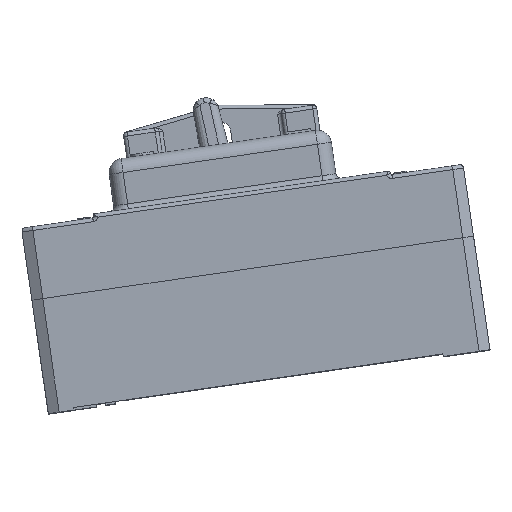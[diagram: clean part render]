
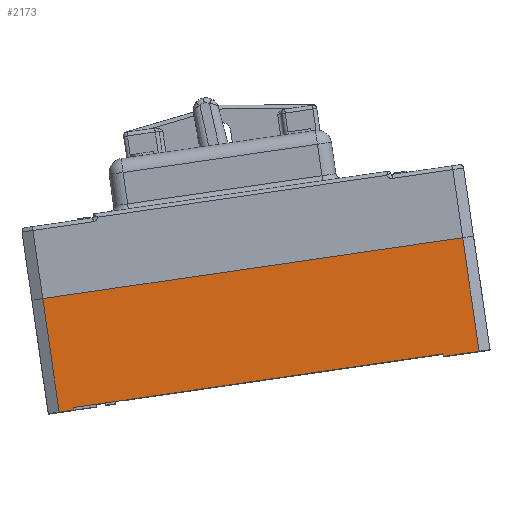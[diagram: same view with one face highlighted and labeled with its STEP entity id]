
A CAD part, top view. The second image highlights one B-rep face of the part: STEP entity #2173.
In plain terms, the highlighted planar face has unit normal (0, 0, 1).
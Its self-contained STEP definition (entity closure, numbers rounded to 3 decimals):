
#1448 = EDGE_CURVE ( 'NONE', #1450, #1472, #24326, .T. ) ;
#1450 = VERTEX_POINT ( 'NONE', #24321 ) ;
#1472 = VERTEX_POINT ( 'NONE', #24346 ) ;
#1498 = EDGE_CURVE ( 'NONE', #1518, #1569, #24435, .T. ) ;
#1518 = VERTEX_POINT ( 'NONE', #24457 ) ;
#1565 = EDGE_CURVE ( 'NONE', #1566, #1518, #24552, .T. ) ;
#1566 = VERTEX_POINT ( 'NONE', #24548 ) ;
#1569 = VERTEX_POINT ( 'NONE', #24543 ) ;
#1947 = EDGE_CURVE ( 'NONE', #1948, #1566, #25196, .T. ) ;
#1948 = VERTEX_POINT ( 'NONE', #25250 ) ;
#2104 = ORIENTED_EDGE ( 'NONE', *, *, #2168, .T. ) ;
#2105 = ORIENTED_EDGE ( 'NONE', *, *, #1947, .T. ) ;
#2106 = ORIENTED_EDGE ( 'NONE', *, *, #1565, .T. ) ;
#2107 = ORIENTED_EDGE ( 'NONE', *, *, #1498, .T. ) ;
#2108 = EDGE_CURVE ( 'NONE', #1450, #1569, #25490, .T. ) ;
#2109 = ORIENTED_EDGE ( 'NONE', *, *, #2108, .F. ) ;
#2110 = ORIENTED_EDGE ( 'NONE', *, *, #1448, .T. ) ;
#2111 = VERTEX_POINT ( 'NONE', #25486 ) ;
#2168 = EDGE_CURVE ( 'NONE', #2171, #1948, #25592, .T. ) ;
#2171 = VERTEX_POINT ( 'NONE', #25588 ) ;
#2172 = ORIENTED_EDGE ( 'NONE', *, *, #2179, .F. ) ;
#2173 = ADVANCED_FACE ( 'NONE', ( #25587 ), #25586, .T. ) ;
#2175 = EDGE_LOOP ( 'NONE', ( #2104, #2105, #2106, #2107, #2109, #2110, #2181, #2172 ) ) ;
#2179 = EDGE_CURVE ( 'NONE', #2171, #2111, #25572, .T. ) ;
#2181 = ORIENTED_EDGE ( 'NONE', *, *, #2182, .T. ) ;
#2182 = EDGE_CURVE ( 'NONE', #1472, #2111, #25627, .T. ) ;
#24321 = CARTESIAN_POINT ( 'NONE',  ( -82.527, 32.261, 56.25 ) ) ;
#24323 = DIRECTION ( 'NONE',  ( 0.143, -0.99, 0. ) ) ;
#24324 = VECTOR ( 'NONE', #24323, 1000. ) ;
#24325 = CARTESIAN_POINT ( 'NONE',  ( -76.073, -12.273, 56.25 ) ) ;
#24326 = LINE ( 'NONE', #24325, #24324 ) ;
#24346 = CARTESIAN_POINT ( 'NONE',  ( -76.073, -12.273, 56.25 ) ) ;
#24428 = DIRECTION ( 'NONE',  ( -0.143, 0.99, 0. ) ) ;
#24429 = VECTOR ( 'NONE', #24428, 1000. ) ;
#24430 = CARTESIAN_POINT ( 'NONE',  ( 88.607, 11.592, 56.25 ) ) ;
#24435 = LINE ( 'NONE', #24430, #24429 ) ;
#24457 = CARTESIAN_POINT ( 'NONE',  ( 88.607, 11.592, 56.25 ) ) ;
#24543 = CARTESIAN_POINT ( 'NONE',  ( 82.153, 56.126, 56.25 ) ) ;
#24548 = CARTESIAN_POINT ( 'NONE',  ( 74.554, 9.555, 56.25 ) ) ;
#24549 = DIRECTION ( 'NONE',  ( 0.99, 0.143, 0. ) ) ;
#24550 = VECTOR ( 'NONE', #24549, 1000. ) ;
#24551 = CARTESIAN_POINT ( 'NONE',  ( -80.328, -12.89, 56.25 ) ) ;
#24552 = LINE ( 'NONE', #24551, #24550 ) ;
#25196 = LINE ( 'NONE', #25253, #25252 ) ;
#25250 = CARTESIAN_POINT ( 'NONE',  ( 74.41, 10.545, 56.25 ) ) ;
#25251 = DIRECTION ( 'NONE',  ( 0.143, -0.99, 0. ) ) ;
#25252 = VECTOR ( 'NONE', #25251, 1000. ) ;
#25253 = CARTESIAN_POINT ( 'NONE',  ( 47.345, 197.306, 56.25 ) ) ;
#25486 = CARTESIAN_POINT ( 'NONE',  ( -70.432, -11.456, 56.25 ) ) ;
#25487 = DIRECTION ( 'NONE',  ( 0.99, 0.143, 0. ) ) ;
#25488 = VECTOR ( 'NONE', #25487, 1000. ) ;
#25489 = CARTESIAN_POINT ( 'NONE',  ( -86.782, 31.645, 56.25 ) ) ;
#25490 = LINE ( 'NONE', #25489, #25488 ) ;
#25569 = DIRECTION ( 'NONE',  ( 0.143, -0.99, 0. ) ) ;
#25570 = VECTOR ( 'NONE', #25569, 1000. ) ;
#25571 = CARTESIAN_POINT ( 'NONE',  ( -97.64, 176.295, 56.25 ) ) ;
#25572 = LINE ( 'NONE', #25571, #25570 ) ;
#25582 = DIRECTION ( 'NONE',  ( 0.99, 0.143, 0. ) ) ;
#25583 = DIRECTION ( 'NONE',  ( 0., 0., 1. ) ) ;
#25584 = CARTESIAN_POINT ( 'NONE',  ( -80.328, -12.89, 56.25 ) ) ;
#25585 = AXIS2_PLACEMENT_3D ( 'NONE', #25584, #25583, #25582 ) ;
#25586 = PLANE ( 'NONE',  #25585 ) ;
#25587 = FACE_OUTER_BOUND ( 'NONE', #2175, .T. ) ;
#25588 = CARTESIAN_POINT ( 'NONE',  ( -70.575, -10.466, 56.25 ) ) ;
#25589 = DIRECTION ( 'NONE',  ( 0.99, 0.143, 0. ) ) ;
#25590 = VECTOR ( 'NONE', #25589, 1000. ) ;
#25591 = CARTESIAN_POINT ( 'NONE',  ( -70.575, -10.466, 56.25 ) ) ;
#25592 = LINE ( 'NONE', #25591, #25590 ) ;
#25624 = DIRECTION ( 'NONE',  ( 0.99, 0.143, 0. ) ) ;
#25625 = VECTOR ( 'NONE', #25624, 1000. ) ;
#25626 = CARTESIAN_POINT ( 'NONE',  ( -80.328, -12.89, 56.25 ) ) ;
#25627 = LINE ( 'NONE', #25626, #25625 ) ;
